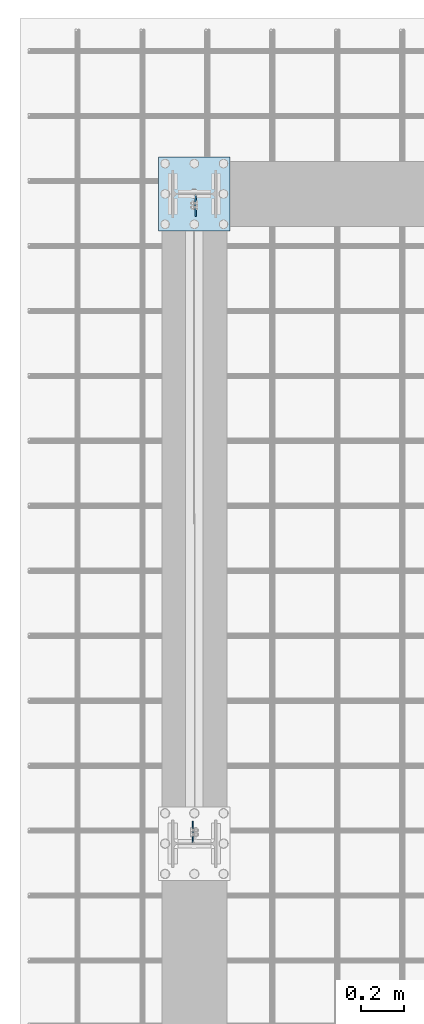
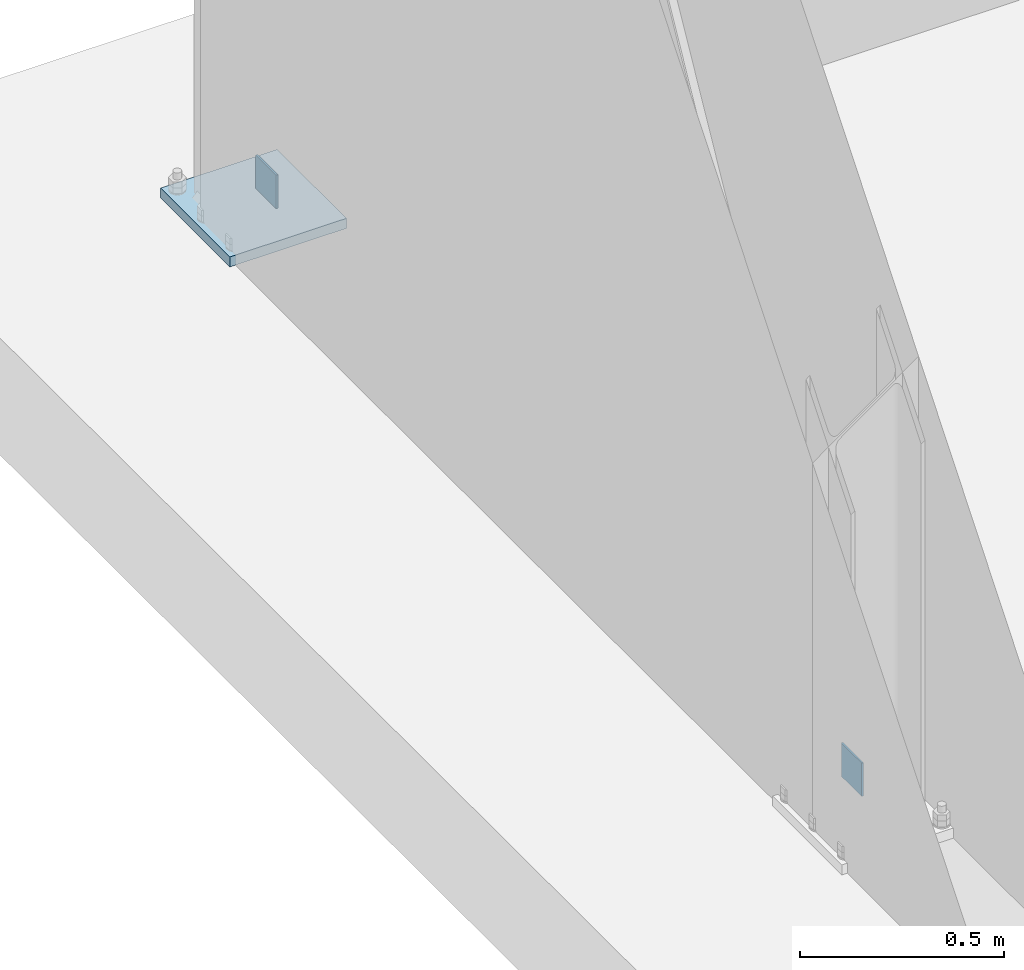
# One storey, part 2 of 29: 3 plates.
"""IFC4 building model written with IfcOpenShell, lengths in metres."""

from ifc_helpers import new_model, si_unit, frame, origin_with_axes, place, context, project, spatial, polyline, outline, extrude, type_object, element, save


model = new_model("IFC4")

# Units and contexts
model_context = context("Model", 3, precision=1e-05, world=origin_with_axes())
ifc_project = project(units=[si_unit("LENGTHUNIT", "METRE"), si_unit("AREAUNIT", "SQUARE_METRE"), si_unit("VOLUMEUNIT", "CUBIC_METRE"), si_unit("MASSUNIT", "GRAM", prefix="KILO"), si_unit("TIMEUNIT", "SECOND"), si_unit("PLANEANGLEUNIT", "RADIAN"), si_unit("SOLIDANGLEUNIT", "STERADIAN"), si_unit("THERMODYNAMICTEMPERATUREUNIT", "DEGREE_CELSIUS")], contexts=[model_context])

# Site, building, storey
placement_1 = place(None, origin_with_axes())
site = spatial("IfcSite", under=ifc_project, at=placement_1, Name="Italia", CompositionType="ELEMENT")
building = spatial("IfcBuilding", under=site, at=placement_1, Name="Capannone", CompositionType="ELEMENT")
storey = spatial("IfcBuildingStorey", under=building, at=placement_1, Name="Storey 0", CompositionType="ELEMENT", Elevation=0.0)

# Plates
plate_type_1 = type_object("IfcPlateType", Name="Collegamenti 0001_0101 0002_0102 0003_0103 0004_0104 0005_0105 0006_0106 0007_0107 0008_0108 0009_0109 0010_0110 0011_0111 0012_0112", PredefinedType="SHEET")
placement_2 = place(placement_1, origin_with_axes())
plate_1_placement = place(placement_2, origin_with_axes())
element("IfcPlate", 1, at=plate_1_placement, inside=storey, type_object=plate_type_1, Name="Collegamenti 0001_0101 0002_0102 0003_0103 0004_0104 0005_0105 0006_0106 0007_0107 0008_0108 0009_0109 0010_0110 0011_0111 0012_0112", context=model_context, shape_type="SweptSolid", body=[
    extrude(outline(polyline([(0.0, 0.0), (0.34, 0.0), (0.34, -0.33), (0.0, -0.33), (0.0, 0.0)])), frame((0.165, 14.83, 0.03), z_axis=(0.0, 0.0, -1.0), x_axis=(0.0, 1.0, 0.0)), (0.0, 0.0, 1.0), 0.03),
])
plate_type_2 = type_object("IfcPlateType", Name="Collegamento 0009_0111", PredefinedType="SHEET")
plate_2_placement = place(placement_2, origin_with_axes())
element("IfcPlate", 2, at=plate_2_placement, inside=storey, type_object=plate_type_2, Name="Collegamento 0009_0111", context=model_context, shape_type="SweptSolid", body=[
    extrude(outline(polyline([(0.0, 0.0), (-0.1, -3.12924e-07), (-0.0999994, -0.1), (9.53674e-07, -0.1), (0.0, 0.0)])), frame((-0.009, 12.1035, 0.174828), z_axis=(1.0, 0.0, 0.0), x_axis=(0.0, 1.0, 0.0)), (0.0, 0.0, 1.0), 0.005),
])
plate_type_3 = type_object("IfcPlateType", Name="Collegamento 0011_0109", PredefinedType="SHEET")
plate_3_placement = place(placement_2, origin_with_axes())
element("IfcPlate", 3, at=plate_3_placement, inside=storey, type_object=plate_type_3, Name="Collegamento 0011_0109", context=model_context, shape_type="SweptSolid", body=[
    extrude(outline(polyline([(0.0, 0.0), (-0.1, 0.0), (-0.0999994, -0.0999998), (0.0, -0.1), (0.0, 0.0)])), frame((0.009, 14.8965, 0.174827), z_axis=(-1.0, 0.0, 0.0), x_axis=(0.0, -1.0, 0.0)), (0.0, 0.0, 1.0), 0.005),
])

save(model, "model.ifc")
